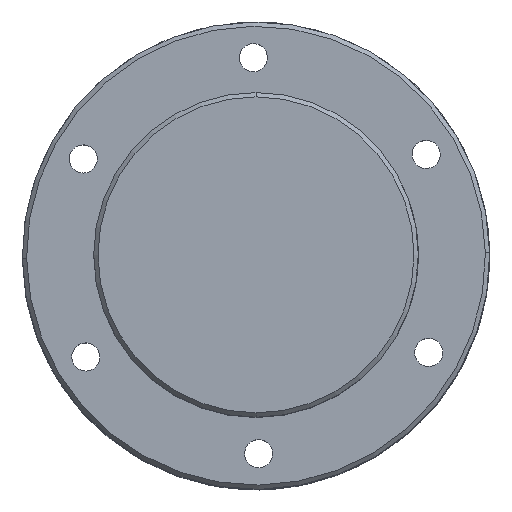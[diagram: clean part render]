
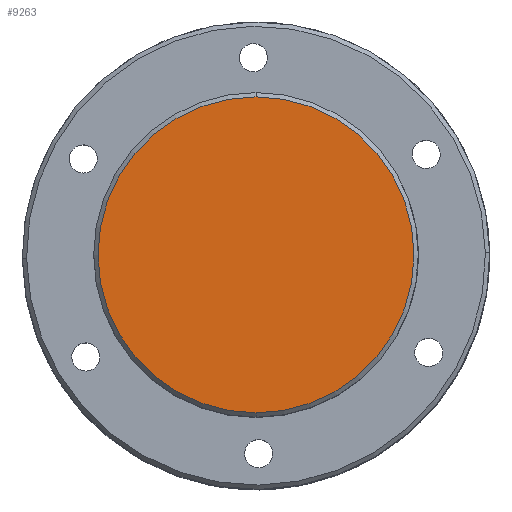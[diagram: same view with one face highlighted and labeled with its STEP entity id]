
A CAD part, top view. The second image highlights one B-rep face of the part: STEP entity #9263.
In plain terms, the highlighted planar face has unit normal (0, 0, 1) as drawn and (-1, 0, 0) by its records, which use the part's own axes.
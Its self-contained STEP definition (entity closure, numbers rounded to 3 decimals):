
#129 = DIRECTION ( 'NONE',  ( -1., 0., 0. ) ) ;
#549 = DIRECTION ( 'NONE',  ( 1., 0., 0. ) ) ;
#1096 = VERTEX_POINT ( 'NONE', #8323 ) ;
#1529 = PLANE ( 'NONE',  #8263 ) ;
#2821 = DIRECTION ( 'NONE',  ( 0., 0., -1. ) ) ;
#4338 = CARTESIAN_POINT ( 'NONE',  ( 0., 0., 0. ) ) ;
#5021 = ORIENTED_EDGE ( 'NONE', *, *, #13446, .T. ) ;
#6713 = CARTESIAN_POINT ( 'NONE',  ( 0., 0., 0. ) ) ;
#7785 = AXIS2_PLACEMENT_3D ( 'NONE', #8977, #14022, #15306 ) ;
#8087 = ORIENTED_EDGE ( 'NONE', *, *, #9531, .T. ) ;
#8263 = AXIS2_PLACEMENT_3D ( 'NONE', #4338, #549, #15486 ) ;
#8323 = CARTESIAN_POINT ( 'NONE',  ( 0., 0., 36.5 ) ) ;
#8977 = CARTESIAN_POINT ( 'NONE',  ( 0., 0., 0. ) ) ;
#9242 = VERTEX_POINT ( 'NONE', #13915 ) ;
#9263 = ADVANCED_FACE ( 'NONE', ( #10003 ), #1529, .F. ) ;
#9531 = EDGE_CURVE ( 'NONE', #9242, #1096, #16816, .T. ) ;
#10003 = FACE_OUTER_BOUND ( 'NONE', #16383, .T. ) ;
#13446 = EDGE_CURVE ( 'NONE', #1096, #9242, #16334, .T. ) ;
#13915 = CARTESIAN_POINT ( 'NONE',  ( 0., 0., -36.5 ) ) ;
#14022 = DIRECTION ( 'NONE',  ( -1., 0., 0. ) ) ;
#15306 = DIRECTION ( 'NONE',  ( 0., 0., -1. ) ) ;
#15486 = DIRECTION ( 'NONE',  ( 0., 0., -1. ) ) ;
#15923 = AXIS2_PLACEMENT_3D ( 'NONE', #6713, #129, #2821 ) ;
#16334 = CIRCLE ( 'NONE', #7785, 36.5 ) ;
#16383 = EDGE_LOOP ( 'NONE', ( #8087, #5021 ) ) ;
#16816 = CIRCLE ( 'NONE', #15923, 36.5 ) ;
